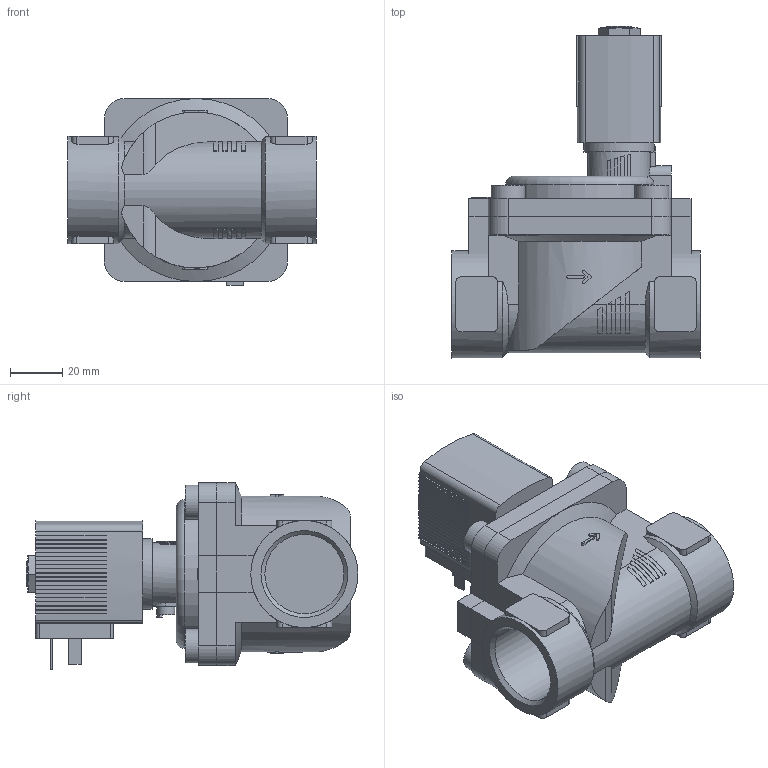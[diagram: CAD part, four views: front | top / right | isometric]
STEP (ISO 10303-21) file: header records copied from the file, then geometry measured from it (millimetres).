
FILE_DESCRIPTION(/* description */ ('STEP AP214'),/* implementation_level */ '2;1');
FILE_NAME(/* name */ '6281-259458-2_2-Way_Solenoid_Valve__Servo-assisted__General_Purpose',/* time_stamp */ '2024-06-06T21:45:57+02:00',/* author */ ('License CC BY-ND 4.0'),/* organization */ ('CADENAS'),/* preprocessor_version */ 'ST-DEVELOPER v19.3',/* originating_system */ 'PARTsolutions',/* authorisation */ ' ');
FILE_SCHEMA (('AUTOMOTIVE_DESIGN {1 0 10303 214 3 1 1}'));
Length unit declared in the file: millimetre
Products named in the file (4): 6281-259458-2/2-Way Solenoid Valve, Servo-assisted, General Purpose; 5281ev251MS2/2-Wege-Magnetventil mit Servomembran-Deckel   ; 6213-25G1MS-Gehaeuse-; AC10ex-5OO-Plan-Coil
Assembly tree (3 placements, depth 2):
  6281-259458-2/2-Way Solenoid Valve, Servo-assisted, General Purpose
    5281ev251MS2/2-Wege-Magnetventil mit Servomembran-Deckel   
    6213-25G1MS-Gehaeuse-
    AC10ex-5OO-Plan-Coil
Bounding box: 95 x 127 x 71.5 mm (x, y, z)
Volume: 289568.5 mm3; surface area: 55787.9 mm2
Topology: 3 solids, 3 shells, 553 faces, 1554 edges, 1030 vertices
Faces by surface type: plane 447, cylinder 92, cone 13, torus 1
Full cylindrical faces by diameter (mm): 2.013 x1, 6.8 x1, 9.74 x1, 13 x4, 27 x1, 30.291 x2, 41 x2
Entity records: 20458 total; most frequent: CARTESIAN_POINT 3362, ORIENTED_EDGE 3056, DIRECTION 2892, EDGE_CURVE 1528, LINE 1144, VECTOR 1144, VERTEX_POINT 1021, AXIS2_PLACEMENT_3D 874
